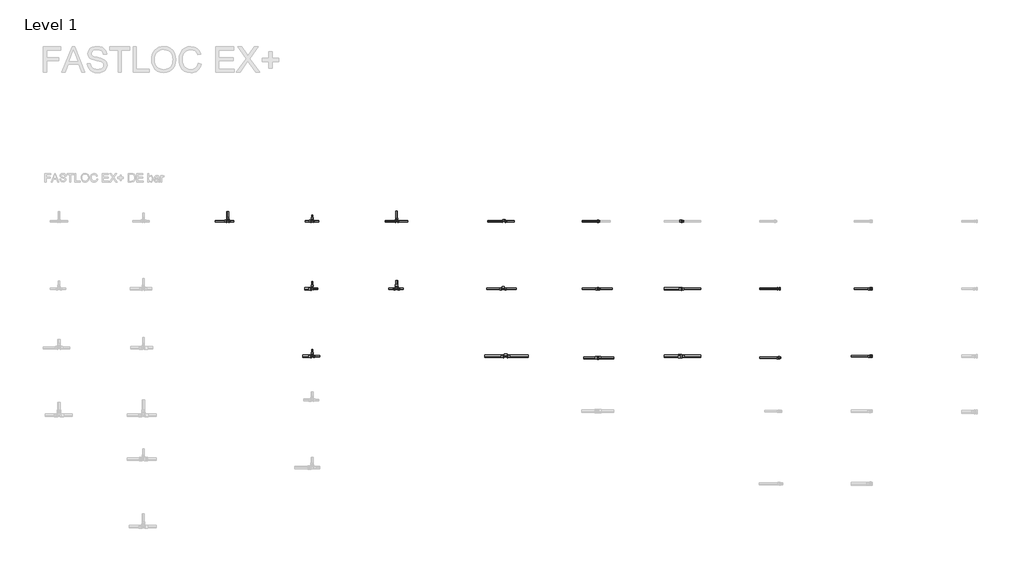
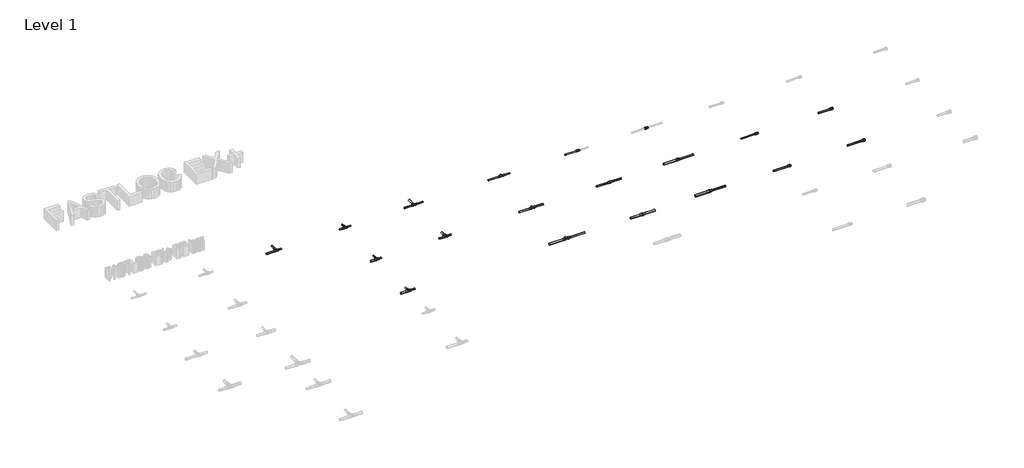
# One storey, part 11 of 16: 37 pipe segments, 19 pipe fittings.
"""IFC4 building model written with IfcOpenShell, lengths in millimetres."""

from ifc_helpers import new_model, si_unit, point, frame, frame_2d, origin, place, context, project, spatial, circle_curve, trimmed, segment, composite_curve, outline, extrude, transform, mapped, element, save
from components import pipe_fitting_78029988, pipe_fitting_15fe286b, pipe_fitting_1a227808, pipe_fitting_455e7b61, pipe_fitting_0153befe, pipe_fitting_3090ac59, pipe_fitting_8e4805be, pipe_fitting_271ef6d1, pipe_fitting_f7ca1bd1, pipe_fitting_db3e6b17, pipe_fitting_a2d92617, pipe_fitting_92973462, pipe_fitting_e5d04139, pipe_fitting_b445dcfe, pipe_fitting_d2a23061, pipe_fitting_f8e3a86c, pipe_fitting_d75665eb, pipe_fitting_9284d0bf, pipe_fitting_5ce0ec79

model = new_model("IFC4")

# Units and contexts
model_context = context("Model", 3, world=origin())
ifc_project = project(units=[si_unit("LENGTHUNIT", "METRE", prefix="MILLI")], contexts=[model_context])

# Site, building, storey
site = spatial("IfcSite", under=ifc_project)
building = spatial("IfcBuilding", under=site)
storey = spatial("IfcBuildingStorey", under=building, Name="Level 1", Elevation=0.0)

# Pipe fittings
placement = place(None, origin())
pipe_fitting_shape = pipe_fitting_78029988(model_context)
element("IfcPipeFitting", 1, ObjectType="FASTLOC_T-piece_EX+ : FSL T-Piece EX+ DE", at=placement, inside=storey, context=model_context, shape_type="MappedRepresentation", body=[
    mapped(pipe_fitting_shape, transform((5562.9146925, 2012.3520033, 0.0), x_axis=(1.0, 0.0, 0.0), y_axis=(0.0, 1.0, 0.0), z_axis=(0.0, 0.0, 1.0))),
])
pipe_fitting_2_shape = pipe_fitting_15fe286b(model_context)
element("IfcPipeFitting", 2, ObjectType="FASTLOC_T-piece internal thread EX+ : FSL T thread EX+ DE", at=placement, inside=storey, context=model_context, shape_type="MappedRepresentation", body=[
    mapped(pipe_fitting_2_shape, transform((6834.0203333, 2012.3520033, 0.0), x_axis=(1.0, 0.0, 0.0), y_axis=(0.0, 1.0, 0.0), z_axis=(0.0, 0.0, 1.0))),
])
pipe_fitting_3_shape = pipe_fitting_1a227808(model_context)
element("IfcPipeFitting", 3, ObjectType="FASTLOC_Coupling reduced EX+ : FSL C EX+ DE", at=placement, inside=storey, context=model_context, shape_type="MappedRepresentation", body=[
    mapped(pipe_fitting_3_shape, transform((8942.2258143, 412.3520033, 0.0), x_axis=(1.0, 0.0, 0.0), y_axis=(0.0, 1.0, 0.0), z_axis=(0.0, 0.0, 1.0))),
])
pipe_fitting_4_shape = pipe_fitting_455e7b61(model_context)
element("IfcPipeFitting", 4, ObjectType="FASTLOC_Coupling equal EX+ : FSL C EX DE", at=placement, inside=storey, context=model_context, shape_type="MappedRepresentation", body=[
    mapped(pipe_fitting_4_shape, transform((7947.6401575, 2012.3520033, 0.0), x_axis=(1.0, 0.0, 0.0), y_axis=(0.0, 1.0, 0.0), z_axis=(0.0, 0.0, 1.0))),
])
pipe_fitting_5_shape = pipe_fitting_0153befe(model_context)
element("IfcPipeFitting", 5, ObjectType="FASTLOC_T-piece_EX+ : FSL T-Piece EX+ DE", at=placement, inside=storey, context=model_context, shape_type="MappedRepresentation", body=[
    mapped(pipe_fitting_5_shape, transform((3562.9146925, 2012.3520033, 0.0), x_axis=(1.0, 0.0, 0.0), y_axis=(0.0, 1.0, 0.0), z_axis=(0.0, 0.0, 1.0))),
])
pipe_fitting_6_shape = pipe_fitting_3090ac59(model_context)
element("IfcPipeFitting", 6, ObjectType="FASTLOC_T-piece_EX+ : FSL T-Piece EX+ DE", at=placement, inside=storey, context=model_context, shape_type="MappedRepresentation", body=[
    mapped(pipe_fitting_6_shape, transform((4562.9146925, 2012.3520033, 0.0), x_axis=(1.0, 0.0, 0.0), y_axis=(0.0, 1.0, 0.0), z_axis=(0.0, 0.0, 1.0))),
])
pipe_fitting_7_shape = pipe_fitting_8e4805be(model_context)
element("IfcPipeFitting", 7, ObjectType="FASTLOC_T-piece_EX+ : FSL T-Piece EX+ DE", at=placement, inside=storey, context=model_context, shape_type="MappedRepresentation", body=[
    mapped(pipe_fitting_7_shape, transform((4562.9146925, 1212.3520033, 0.0), x_axis=(1.0, 0.0, 0.0), y_axis=(0.0, 1.0, 0.0), z_axis=(0.0, 0.0, 1.0))),
])
pipe_fitting_8_shape = pipe_fitting_271ef6d1(model_context)
element("IfcPipeFitting", 8, ObjectType="FASTLOC_T-piece_EX+ : FSL T-Piece EX+ DE", at=placement, inside=storey, context=model_context, shape_type="MappedRepresentation", body=[
    mapped(pipe_fitting_8_shape, transform((4562.9146925, 412.3520033, 0.0), x_axis=(1.0, 0.0, 0.0), y_axis=(0.0, 1.0, 0.0), z_axis=(0.0, 0.0, 1.0))),
])
pipe_fitting_9_shape = pipe_fitting_f7ca1bd1(model_context)
element("IfcPipeFitting", 9, ObjectType="FASTLOC_T-piece_EX+ : FSL T-Piece EX+ DE", at=placement, inside=storey, context=model_context, shape_type="MappedRepresentation", body=[
    mapped(pipe_fitting_9_shape, transform((5562.9146925, 1212.3520033, 0.0), x_axis=(1.0, 0.0, 0.0), y_axis=(0.0, 1.0, 0.0), z_axis=(0.0, 0.0, 1.0))),
])
pipe_fitting_10_shape = pipe_fitting_db3e6b17(model_context)
element("IfcPipeFitting", 10, ObjectType="FASTLOC_Adapter_EX+, with internal thread : FSL A internal DE", at=placement, inside=storey, context=model_context, shape_type="MappedRepresentation", body=[
    mapped(pipe_fitting_10_shape, transform((11179.5143796, 1212.3520033, 0.0), x_axis=(1.0, 0.0, 0.0), y_axis=(0.0, 1.0, 0.0), z_axis=(0.0, 0.0, 1.0))),
])
pipe_fitting_11_shape = pipe_fitting_a2d92617(model_context)
element("IfcPipeFitting", 11, ObjectType="FASTLOC_Adapter_EX+, with internal thread : FSL A internal DE", at=placement, inside=storey, context=model_context, shape_type="MappedRepresentation", body=[
    mapped(pipe_fitting_11_shape, transform((11179.5143796, 412.3520033, 0.0), x_axis=(1.0, 0.0, 0.0), y_axis=(0.0, 1.0, 0.0), z_axis=(0.0, 0.0, 1.0))),
])
pipe_fitting_12_shape = pipe_fitting_92973462(model_context)
element("IfcPipeFitting", 12, ObjectType="FASTLOC_T-piece internal thread EX+ : FSL T thread EX+ DE", at=placement, inside=storey, context=model_context, shape_type="MappedRepresentation", body=[
    mapped(pipe_fitting_12_shape, transform((6823.972973, 1212.3520033, 0.0), x_axis=(1.0, 0.0, 0.0), y_axis=(0.0, 1.0, 0.0), z_axis=(0.0, 0.0, 1.0))),
])
pipe_fitting_13_shape = pipe_fitting_e5d04139(model_context)
element("IfcPipeFitting", 13, ObjectType="FASTLOC_T-piece internal thread EX+ : FSL T thread EX+ DE", at=placement, inside=storey, context=model_context, shape_type="MappedRepresentation", body=[
    mapped(pipe_fitting_13_shape, transform((6854.9423493, 412.3520033, 0.0), x_axis=(1.0, 0.0, 0.0), y_axis=(0.0, 1.0, 0.0), z_axis=(0.0, 0.0, 1.0))),
])
pipe_fitting_14_shape = pipe_fitting_b445dcfe(model_context)
element("IfcPipeFitting", 14, ObjectType="FASTLOC_Coupling reduced EX+ : FSL C EX+ DE", at=placement, inside=storey, context=model_context, shape_type="MappedRepresentation", body=[
    mapped(pipe_fitting_14_shape, transform((8942.2258143, 2012.3520033, 0.0), x_axis=(1.0, 0.0, 0.0), y_axis=(0.0, 1.0, 0.0), z_axis=(0.0, 0.0, 1.0))),
])
pipe_fitting_15_shape = pipe_fitting_d2a23061(model_context)
element("IfcPipeFitting", 15, ObjectType="FASTLOC_Coupling reduced EX+ : FSL C EX+ DE", at=placement, inside=storey, context=model_context, shape_type="MappedRepresentation", body=[
    mapped(pipe_fitting_15_shape, transform((8942.2258143, 1212.3520033, 0.0), x_axis=(1.0, 0.0, 0.0), y_axis=(0.0, 1.0, 0.0), z_axis=(0.0, 0.0, 1.0))),
])
pipe_fitting_16_shape = pipe_fitting_f8e3a86c(model_context)
element("IfcPipeFitting", 16, ObjectType="FASTLOC_Coupling equal EX+ : FSL C EX DE", at=placement, inside=storey, context=model_context, shape_type="MappedRepresentation", body=[
    mapped(pipe_fitting_16_shape, transform((7947.6401575, 1212.3520033, 0.0), x_axis=(1.0, 0.0, 0.0), y_axis=(0.0, 1.0, 0.0), z_axis=(0.0, 0.0, 1.0))),
])
pipe_fitting_17_shape = pipe_fitting_d75665eb(model_context)
element("IfcPipeFitting", 17, ObjectType="FASTLOC_Coupling equal EX+ : FSL C EX DE", at=placement, inside=storey, context=model_context, shape_type="MappedRepresentation", body=[
    mapped(pipe_fitting_17_shape, transform((7947.6401575, 393.645754, 0.0), x_axis=(1.0, 0.0, 0.0), y_axis=(0.0, 1.0, 0.0), z_axis=(0.0, 0.0, 1.0))),
])
pipe_fitting_18_shape = pipe_fitting_9284d0bf(model_context)
element("IfcPipeFitting", 18, ObjectType="FASTLOC_Adapter_RX+, with external thread : FSL A C external EX+ DE", at=placement, inside=storey, context=model_context, shape_type="MappedRepresentation", body=[
    mapped(pipe_fitting_18_shape, transform((10080.5062975, 1212.3520033, 0.0), x_axis=(1.0, 0.0, 0.0), y_axis=(0.0, 1.0, 0.0), z_axis=(0.0, 0.0, 1.0))),
])
pipe_fitting_19_shape = pipe_fitting_5ce0ec79(model_context)
element("IfcPipeFitting", 19, ObjectType="FASTLOC_Adapter_RX+, with external thread : FSL A C external EX+ DE", at=placement, inside=storey, context=model_context, shape_type="MappedRepresentation", body=[
    mapped(pipe_fitting_19_shape, transform((10090.6359613, 393.645754, 0.0), x_axis=(1.0, 0.0, 0.0), y_axis=(0.0, 1.0, 0.0), z_axis=(0.0, 0.0, 1.0))),
])

# Pipe segments
element("IfcPipeSegment", 20, ObjectType="FASTLOC EX+ ML DE bar", at=placement, inside=storey, context=model_context, shape_type="SweptSolid", body=[
    extrude(outline(composite_curve([segment(trimmed(circle_curve(frame_2d((1212.3520033, 0.0)), 10.0), [point((1222.3520033, 0.0))], [point((1212.3520033, -10.0))], False, "CARTESIAN"), True, "CONTINUOUS"), segment(trimmed(circle_curve(frame_2d((1212.3520033, 0.0)), 10.0), [point((1212.3520033, -10.0))], [point((1202.3520033, 0.0))], False, "CARTESIAN"), True, "CONTINUOUS"), segment(trimmed(circle_curve(frame_2d((1212.3520033, 0.0)), 10.0), [point((1202.3520033, 0.0))], [point((1212.3520033, 10.0))], False, "CARTESIAN"), True, "CONTINUOUS"), segment(trimmed(circle_curve(frame_2d((1212.3520033, 0.0)), 10.0), [point((1212.3520033, 10.0))], [point((1222.3520033, 0.0))], False, "CARTESIAN"), True, "CONTINUOUS")], self_intersect=False)), frame((10987.1143796, 0.0, 0.0), z_axis=(1.0, 0.0, 0.0), x_axis=(0.0, 1.0, 0.0)), (0.0, 0.0, 1.0), 180.7),
])
element("IfcPipeSegment", 21, ObjectType="FASTLOC EX+ ML DE bar", at=placement, inside=storey, context=model_context, shape_type="SweptSolid", body=[
    extrude(outline(composite_curve([segment(trimmed(circle_curve(frame_2d((412.3520033, 0.0)), 10.0), [point((422.3520033, 0.0))], [point((412.3520033, -10.0))], False, "CARTESIAN"), True, "CONTINUOUS"), segment(trimmed(circle_curve(frame_2d((412.3520033, 0.0)), 10.0), [point((412.3520033, -10.0))], [point((402.3520033, 0.0))], False, "CARTESIAN"), True, "CONTINUOUS"), segment(trimmed(circle_curve(frame_2d((412.3520033, 0.0)), 10.0), [point((402.3520033, 0.0))], [point((412.3520033, 10.0))], False, "CARTESIAN"), True, "CONTINUOUS"), segment(trimmed(circle_curve(frame_2d((412.3520033, 0.0)), 10.0), [point((412.3520033, 10.0))], [point((422.3520033, 0.0))], False, "CARTESIAN"), True, "CONTINUOUS")], self_intersect=False)), frame((10946.2143796, 0.0, 0.0), z_axis=(1.0, 0.0, 0.0), x_axis=(0.0, 1.0, 0.0)), (0.0, 0.0, 1.0), 220.0),
])
element("IfcPipeSegment", 22, ObjectType="FASTLOC EX+ ML DE bar", at=placement, inside=storey, context=model_context, shape_type="SweptSolid", body=[
    extrude(outline(composite_curve([segment(trimmed(circle_curve(frame_2d((393.645754, 0.0)), 10.0), [point((403.645754, 0.0))], [point((393.645754, -10.0))], False, "CARTESIAN"), True, "CONTINUOUS"), segment(trimmed(circle_curve(frame_2d((393.645754, 0.0)), 10.0), [point((393.645754, -10.0))], [point((383.645754, 0.0))], False, "CARTESIAN"), True, "CONTINUOUS"), segment(trimmed(circle_curve(frame_2d((393.645754, 0.0)), 10.0), [point((383.645754, 0.0))], [point((393.645754, 10.0))], False, "CARTESIAN"), True, "CONTINUOUS"), segment(trimmed(circle_curve(frame_2d((393.645754, 0.0)), 10.0), [point((393.645754, 10.0))], [point((403.645754, 0.0))], False, "CARTESIAN"), True, "CONTINUOUS")], self_intersect=False)), frame((9861.9359613, 0.0, 0.0), z_axis=(1.0, 0.0, 0.0), x_axis=(0.0, 1.0, 0.0)), (0.0, 0.0, 1.0), 220.0),
])
element("IfcPipeSegment", 23, ObjectType="FASTLOC EX+ ML DE bar", at=placement, inside=storey, context=model_context, shape_type="SweptSolid", body=[
    extrude(outline(composite_curve([segment(trimmed(circle_curve(frame_2d((1212.3520033, 0.0)), 8.0), [point((1220.3520033, 0.0))], [point((1212.3520033, -8.0))], False, "CARTESIAN"), True, "CONTINUOUS"), segment(trimmed(circle_curve(frame_2d((1212.3520033, 0.0)), 8.0), [point((1212.3520033, -8.0))], [point((1204.3520033, 0.0))], False, "CARTESIAN"), True, "CONTINUOUS"), segment(trimmed(circle_curve(frame_2d((1212.3520033, 0.0)), 8.0), [point((1204.3520033, 0.0))], [point((1212.3520033, 8.0))], False, "CARTESIAN"), True, "CONTINUOUS"), segment(trimmed(circle_curve(frame_2d((1212.3520033, 0.0)), 8.0), [point((1212.3520033, 8.0))], [point((1220.3520033, 0.0))], False, "CARTESIAN"), True, "CONTINUOUS")], self_intersect=False)), frame((9861.9359613, 0.0, 0.0), z_axis=(1.0, 0.0, 0.0), x_axis=(0.0, 1.0, 0.0)), (0.0, 0.0, 1.0), 209.6703362),
])
element("IfcPipeSegment", 24, ObjectType="FASTLOC EX+ ML DE bar", at=placement, inside=storey, context=model_context, shape_type="SweptSolid", body=[
    extrude(outline(composite_curve([segment(trimmed(circle_curve(frame_2d((2012.3520033, 0.0)), 8.0), [point((2020.3520033, 0.0))], [point((2012.3520033, -8.0))], False, "CARTESIAN"), True, "CONTINUOUS"), segment(trimmed(circle_curve(frame_2d((2012.3520033, 0.0)), 8.0), [point((2012.3520033, -8.0))], [point((2004.3520033, 0.0))], False, "CARTESIAN"), True, "CONTINUOUS"), segment(trimmed(circle_curve(frame_2d((2012.3520033, 0.0)), 8.0), [point((2004.3520033, 0.0))], [point((2012.3520033, 8.0))], False, "CARTESIAN"), True, "CONTINUOUS"), segment(trimmed(circle_curve(frame_2d((2012.3520033, 0.0)), 8.0), [point((2012.3520033, 8.0))], [point((2020.3520033, 0.0))], False, "CARTESIAN"), True, "CONTINUOUS")], self_intersect=False)), frame((7760.4401575, 0.0, 0.0), z_axis=(1.0, 0.0, 0.0), x_axis=(0.0, 1.0, 0.0)), (0.0, 0.0, 1.0), 180.0),
])
element("IfcPipeSegment", 25, ObjectType="FASTLOC EX+ ML DE bar", at=placement, inside=storey, context=model_context, shape_type="SweptSolid", body=[
    extrude(outline(composite_curve([segment(trimmed(circle_curve(frame_2d((1212.3520033, 0.0)), 10.0), [point((1202.3520033, 0.0))], [point((1212.3520033, 10.0))], False, "CARTESIAN"), True, "CONTINUOUS"), segment(trimmed(circle_curve(frame_2d((1212.3520033, 0.0)), 10.0), [point((1212.3520033, 10.0))], [point((1222.3520033, 0.0))], False, "CARTESIAN"), True, "CONTINUOUS"), segment(trimmed(circle_curve(frame_2d((1212.3520033, 0.0)), 10.0), [point((1222.3520033, 0.0))], [point((1212.3520033, -10.0))], False, "CARTESIAN"), True, "CONTINUOUS"), segment(trimmed(circle_curve(frame_2d((1212.3520033, 0.0)), 10.0), [point((1212.3520033, -10.0))], [point((1202.3520033, 0.0))], False, "CARTESIAN"), True, "CONTINUOUS")], self_intersect=False)), frame((7955.0401575, 0.0, 0.0), z_axis=(1.0, 0.0, 0.0), x_axis=(0.0, 1.0, 0.0)), (0.0, 0.0, 1.0), 160.0),
])
element("IfcPipeSegment", 26, ObjectType="FASTLOC EX+ ML DE bar", at=placement, inside=storey, context=model_context, shape_type="SweptSolid", body=[
    extrude(outline(composite_curve([segment(trimmed(circle_curve(frame_2d((1212.3520033, 0.0)), 10.0), [point((1222.3520033, 0.0))], [point((1212.3520033, -10.0))], False, "CARTESIAN"), True, "CONTINUOUS"), segment(trimmed(circle_curve(frame_2d((1212.3520033, 0.0)), 10.0), [point((1212.3520033, -10.0))], [point((1202.3520033, 0.0))], False, "CARTESIAN"), True, "CONTINUOUS"), segment(trimmed(circle_curve(frame_2d((1212.3520033, 0.0)), 10.0), [point((1202.3520033, 0.0))], [point((1212.3520033, 10.0))], False, "CARTESIAN"), True, "CONTINUOUS"), segment(trimmed(circle_curve(frame_2d((1212.3520033, 0.0)), 10.0), [point((1212.3520033, 10.0))], [point((1222.3520033, 0.0))], False, "CARTESIAN"), True, "CONTINUOUS")], self_intersect=False)), frame((7760.4401575, 0.0, 0.0), z_axis=(1.0, 0.0, 0.0), x_axis=(0.0, 1.0, 0.0)), (0.0, 0.0, 1.0), 179.8),
])
element("IfcPipeSegment", 27, ObjectType="FASTLOC EX+ ML DE bar", at=placement, inside=storey, context=model_context, shape_type="SweptSolid", body=[
    extrude(outline(composite_curve([segment(trimmed(circle_curve(frame_2d((393.645754, 0.0)), 12.5), [point((381.145754, 0.0))], [point((393.645754, 12.5))], False, "CARTESIAN"), True, "CONTINUOUS"), segment(trimmed(circle_curve(frame_2d((393.645754, 0.0)), 12.5), [point((393.645754, 12.5))], [point((406.145754, 0.0))], False, "CARTESIAN"), True, "CONTINUOUS"), segment(trimmed(circle_curve(frame_2d((393.645754, 0.0)), 12.5), [point((406.145754, 0.0))], [point((393.645754, -12.5))], False, "CARTESIAN"), True, "CONTINUOUS"), segment(trimmed(circle_curve(frame_2d((393.645754, 0.0)), 12.5), [point((393.645754, -12.5))], [point((381.145754, 0.0))], False, "CARTESIAN"), True, "CONTINUOUS")], self_intersect=False)), frame((7955.6401575, 0.0, 0.0), z_axis=(1.0, 0.0, 0.0), x_axis=(0.0, 1.0, 0.0)), (0.0, 0.0, 1.0), 180.0),
])
element("IfcPipeSegment", 28, ObjectType="FASTLOC EX+ ML DE bar", at=placement, inside=storey, context=model_context, shape_type="SweptSolid", body=[
    extrude(outline(composite_curve([segment(trimmed(circle_curve(frame_2d((393.645754, 0.0)), 12.5), [point((406.145754, 0.0))], [point((393.645754, -12.5))], False, "CARTESIAN"), True, "CONTINUOUS"), segment(trimmed(circle_curve(frame_2d((393.645754, 0.0)), 12.5), [point((393.645754, -12.5))], [point((381.145754, 0.0))], False, "CARTESIAN"), True, "CONTINUOUS"), segment(trimmed(circle_curve(frame_2d((393.645754, 0.0)), 12.5), [point((381.145754, 0.0))], [point((393.645754, 12.5))], False, "CARTESIAN"), True, "CONTINUOUS"), segment(trimmed(circle_curve(frame_2d((393.645754, 0.0)), 12.5), [point((393.645754, 12.5))], [point((406.145754, 0.0))], False, "CARTESIAN"), True, "CONTINUOUS")], self_intersect=False)), frame((7779.6401575, 0.0, 0.0), z_axis=(1.0, 0.0, 0.0), x_axis=(0.0, 1.0, 0.0)), (0.0, 0.0, 1.0), 160.0),
])
element("IfcPipeSegment", 29, ObjectType="FASTLOC EX+ ML DE bar", at=placement, inside=storey, context=model_context, shape_type="SweptSolid", body=[
    extrude(outline(composite_curve([segment(trimmed(circle_curve(frame_2d((412.3520033, 0.0)), 12.5), [point((399.8520033, 0.0))], [point((412.3520033, 12.5))], False, "CARTESIAN"), True, "CONTINUOUS"), segment(trimmed(circle_curve(frame_2d((412.3520033, 0.0)), 12.5), [point((412.3520033, 12.5))], [point((424.8520033, 0.0))], False, "CARTESIAN"), True, "CONTINUOUS"), segment(trimmed(circle_curve(frame_2d((412.3520033, 0.0)), 12.5), [point((424.8520033, 0.0))], [point((412.3520033, -12.5))], False, "CARTESIAN"), True, "CONTINUOUS"), segment(trimmed(circle_curve(frame_2d((412.3520033, 0.0)), 12.5), [point((412.3520033, -12.5))], [point((399.8520033, 0.0))], False, "CARTESIAN"), True, "CONTINUOUS")], self_intersect=False)), frame((6881.6423493, 0.0, 0.0), z_axis=(1.0, 0.0, 0.0), x_axis=(0.0, 1.0, 0.0)), (0.0, 0.0, 1.0), 240.0),
])
element("IfcPipeSegment", 30, ObjectType="FASTLOC EX+ ML DE bar", at=placement, inside=storey, context=model_context, shape_type="SweptSolid", body=[
    extrude(outline(composite_curve([segment(trimmed(circle_curve(frame_2d((412.3520033, 0.0)), 12.5), [point((424.8520033, 0.0))], [point((412.3520033, -12.5))], False, "CARTESIAN"), True, "CONTINUOUS"), segment(trimmed(circle_curve(frame_2d((412.3520033, 0.0)), 12.5), [point((412.3520033, -12.5))], [point((399.8520033, 0.0))], False, "CARTESIAN"), True, "CONTINUOUS"), segment(trimmed(circle_curve(frame_2d((412.3520033, 0.0)), 12.5), [point((399.8520033, 0.0))], [point((412.3520033, 12.5))], False, "CARTESIAN"), True, "CONTINUOUS"), segment(trimmed(circle_curve(frame_2d((412.3520033, 0.0)), 12.5), [point((412.3520033, 12.5))], [point((424.8520033, 0.0))], False, "CARTESIAN"), True, "CONTINUOUS")], self_intersect=False)), frame((6608.2423493, 0.0, 0.0), z_axis=(1.0, 0.0, 0.0), x_axis=(0.0, 1.0, 0.0)), (0.0, 0.0, 1.0), 220.0),
])
element("IfcPipeSegment", 31, ObjectType="FASTLOC EX+ ML DE bar", at=placement, inside=storey, context=model_context, shape_type="SweptSolid", body=[
    extrude(outline(composite_curve([segment(trimmed(circle_curve(frame_2d((1212.3520033, 0.0)), 10.0), [point((1202.3520033, 0.0))], [point((1212.3520033, 10.0))], False, "CARTESIAN"), True, "CONTINUOUS"), segment(trimmed(circle_curve(frame_2d((1212.3520033, 0.0)), 10.0), [point((1212.3520033, 10.0))], [point((1222.3520033, 0.0))], False, "CARTESIAN"), True, "CONTINUOUS"), segment(trimmed(circle_curve(frame_2d((1212.3520033, 0.0)), 10.0), [point((1222.3520033, 0.0))], [point((1212.3520033, -10.0))], False, "CARTESIAN"), True, "CONTINUOUS"), segment(trimmed(circle_curve(frame_2d((1212.3520033, 0.0)), 10.0), [point((1212.3520033, -10.0))], [point((1202.3520033, 0.0))], False, "CARTESIAN"), True, "CONTINUOUS")], self_intersect=False)), frame((6846.472973, 0.0, 0.0), z_axis=(1.0, 0.0, 0.0), x_axis=(0.0, 1.0, 0.0)), (0.0, 0.0, 1.0), 135.0),
])
element("IfcPipeSegment", 32, ObjectType="FASTLOC EX+ ML DE bar", at=placement, inside=storey, context=model_context, shape_type="SweptSolid", body=[
    extrude(outline(composite_curve([segment(trimmed(circle_curve(frame_2d((1212.3520033, 0.0)), 10.0), [point((1222.3520033, 0.0))], [point((1212.3520033, -10.0))], False, "CARTESIAN"), True, "CONTINUOUS"), segment(trimmed(circle_curve(frame_2d((1212.3520033, 0.0)), 10.0), [point((1212.3520033, -10.0))], [point((1202.3520033, 0.0))], False, "CARTESIAN"), True, "CONTINUOUS"), segment(trimmed(circle_curve(frame_2d((1212.3520033, 0.0)), 10.0), [point((1202.3520033, 0.0))], [point((1212.3520033, 10.0))], False, "CARTESIAN"), True, "CONTINUOUS"), segment(trimmed(circle_curve(frame_2d((1212.3520033, 0.0)), 10.0), [point((1212.3520033, 10.0))], [point((1222.3520033, 0.0))], False, "CARTESIAN"), True, "CONTINUOUS")], self_intersect=False)), frame((6631.472973, 0.0, 0.0), z_axis=(1.0, 0.0, 0.0), x_axis=(0.0, 1.0, 0.0)), (0.0, 0.0, 1.0), 170.0),
])
element("IfcPipeSegment", 33, ObjectType="FASTLOC EX+ ML DE bar", at=placement, inside=storey, context=model_context, shape_type="SweptSolid", body=[
    extrude(outline(composite_curve([segment(trimmed(circle_curve(frame_2d((2012.3520033, 0.0)), 8.0), [point((2004.3520033, 0.0))], [point((2012.3520033, 8.0))], False, "CARTESIAN"), True, "CONTINUOUS"), segment(trimmed(circle_curve(frame_2d((2012.3520033, 0.0)), 8.0), [point((2012.3520033, 8.0))], [point((2020.3520033, 0.0))], False, "CARTESIAN"), True, "CONTINUOUS"), segment(trimmed(circle_curve(frame_2d((2012.3520033, 0.0)), 8.0), [point((2020.3520033, 0.0))], [point((2012.3520033, -8.0))], False, "CARTESIAN"), True, "CONTINUOUS"), segment(trimmed(circle_curve(frame_2d((2012.3520033, 0.0)), 8.0), [point((2012.3520033, -8.0))], [point((2004.3520033, 0.0))], False, "CARTESIAN"), True, "CONTINUOUS")], self_intersect=False)), frame((6856.0203333, 0.0, 0.0), z_axis=(1.0, 0.0, 0.0), x_axis=(0.0, 1.0, 0.0)), (0.0, 0.0, 1.0), 100.0),
])
element("IfcPipeSegment", 34, ObjectType="FASTLOC EX+ ML DE bar", at=placement, inside=storey, context=model_context, shape_type="SweptSolid", body=[
    extrude(outline(composite_curve([segment(trimmed(circle_curve(frame_2d((2012.3520033, 0.0)), 8.0), [point((2020.3520033, 0.0))], [point((2012.3520033, -8.0))], False, "CARTESIAN"), True, "CONTINUOUS"), segment(trimmed(circle_curve(frame_2d((2012.3520033, 0.0)), 8.0), [point((2012.3520033, -8.0))], [point((2004.3520033, 0.0))], False, "CARTESIAN"), True, "CONTINUOUS"), segment(trimmed(circle_curve(frame_2d((2012.3520033, 0.0)), 8.0), [point((2004.3520033, 0.0))], [point((2012.3520033, 8.0))], False, "CARTESIAN"), True, "CONTINUOUS"), segment(trimmed(circle_curve(frame_2d((2012.3520033, 0.0)), 8.0), [point((2012.3520033, 8.0))], [point((2020.3520033, 0.0))], False, "CARTESIAN"), True, "CONTINUOUS")], self_intersect=False)), frame((6642.0203333, 0.0, 0.0), z_axis=(1.0, 0.0, 0.0), x_axis=(0.0, 1.0, 0.0)), (0.0, 0.0, 1.0), 170.0),
])
element("IfcPipeSegment", 35, ObjectType="FASTLOC EX+ ML DE bar", at=placement, inside=storey, context=model_context, shape_type="SweptSolid", body=[
    extrude(outline(composite_curve([segment(trimmed(circle_curve(frame_2d((2012.3520033, 0.0)), 8.0), [point((2004.3520033, 0.0))], [point((2012.3520033, 8.0))], False, "CARTESIAN"), True, "CONTINUOUS"), segment(trimmed(circle_curve(frame_2d((2012.3520033, 0.0)), 8.0), [point((2012.3520033, 8.0))], [point((2020.3520033, 0.0))], False, "CARTESIAN"), True, "CONTINUOUS"), segment(trimmed(circle_curve(frame_2d((2012.3520033, 0.0)), 8.0), [point((2020.3520033, 0.0))], [point((2012.3520033, -8.0))], False, "CARTESIAN"), True, "CONTINUOUS"), segment(trimmed(circle_curve(frame_2d((2012.3520033, 0.0)), 8.0), [point((2012.3520033, -8.0))], [point((2004.3520033, 0.0))], False, "CARTESIAN"), True, "CONTINUOUS")], self_intersect=False)), frame((5579.8146925, 0.0, 0.0), z_axis=(1.0, 0.0, 0.0), x_axis=(0.0, 1.0, 0.0)), (0.0, 0.0, 1.0), 115.34),
])
element("IfcPipeSegment", 36, ObjectType="FASTLOC EX+ ML DE bar", at=placement, inside=storey, context=model_context, shape_type="SweptSolid", body=[
    extrude(outline(composite_curve([segment(trimmed(circle_curve(frame_2d((2012.3520033, 0.0)), 8.0), [point((2020.3520033, 0.0))], [point((2012.3520033, -8.0))], False, "CARTESIAN"), True, "CONTINUOUS"), segment(trimmed(circle_curve(frame_2d((2012.3520033, 0.0)), 8.0), [point((2012.3520033, -8.0))], [point((2004.3520033, 0.0))], False, "CARTESIAN"), True, "CONTINUOUS"), segment(trimmed(circle_curve(frame_2d((2012.3520033, 0.0)), 8.0), [point((2004.3520033, 0.0))], [point((2012.3520033, 8.0))], False, "CARTESIAN"), True, "CONTINUOUS"), segment(trimmed(circle_curve(frame_2d((2012.3520033, 0.0)), 8.0), [point((2012.3520033, 8.0))], [point((2020.3520033, 0.0))], False, "CARTESIAN"), True, "CONTINUOUS")], self_intersect=False)), frame((5426.0146925, 0.0, 0.0), z_axis=(1.0, 0.0, 0.0), x_axis=(0.0, 1.0, 0.0)), (0.0, 0.0, 1.0), 120.0),
])
element("IfcPipeSegment", 37, ObjectType="FASTLOC EX+ ML DE bar", at=placement, inside=storey, context=model_context, shape_type="SweptSolid", body=[
    extrude(outline(composite_curve([segment(trimmed(circle_curve(frame_2d((0.0, 5562.9146925)), 10.0), [point((0.0, 5572.9146925))], [point((10.0, 5562.9146925))], False, "CARTESIAN"), True, "CONTINUOUS"), segment(trimmed(circle_curve(frame_2d((0.0, 5562.9146925)), 10.0), [point((10.0, 5562.9146925))], [point((0.0, 5552.9146925))], False, "CARTESIAN"), True, "CONTINUOUS"), segment(trimmed(circle_curve(frame_2d((0.0, 5562.9146925)), 10.0), [point((0.0, 5552.9146925))], [point((-10.0, 5562.9146925))], False, "CARTESIAN"), True, "CONTINUOUS"), segment(trimmed(circle_curve(frame_2d((0.0, 5562.9146925)), 10.0), [point((-10.0, 5562.9146925))], [point((0.0, 5572.9146925))], False, "CARTESIAN"), True, "CONTINUOUS")], self_intersect=False)), frame((0.0, 2034.6520033, 0.0), z_axis=(0.0, 1.0, 0.0), x_axis=(0.0, 0.0, 1.0)), (0.0, 0.0, 1.0), 100.0),
])
element("IfcPipeSegment", 38, ObjectType="FASTLOC EX+ ML DE bar", at=placement, inside=storey, context=model_context, shape_type="SweptSolid", body=[
    extrude(outline(composite_curve([segment(trimmed(circle_curve(frame_2d((1212.3520033, 0.0)), 10.0), [point((1222.3520033, 0.0))], [point((1212.3520033, -10.0))], False, "CARTESIAN"), True, "CONTINUOUS"), segment(trimmed(circle_curve(frame_2d((1212.3520033, 0.0)), 10.0), [point((1212.3520033, -10.0))], [point((1202.3520033, 0.0))], False, "CARTESIAN"), True, "CONTINUOUS"), segment(trimmed(circle_curve(frame_2d((1212.3520033, 0.0)), 10.0), [point((1202.3520033, 0.0))], [point((1212.3520033, 10.0))], False, "CARTESIAN"), True, "CONTINUOUS"), segment(trimmed(circle_curve(frame_2d((1212.3520033, 0.0)), 10.0), [point((1212.3520033, 10.0))], [point((1222.3520033, 0.0))], False, "CARTESIAN"), True, "CONTINUOUS")], self_intersect=False)), frame((5468.9146925, 0.0, 0.0), z_axis=(1.0, 0.0, 0.0), x_axis=(0.0, 1.0, 0.0)), (0.0, 0.0, 1.0), 75.0),
])
element("IfcPipeSegment", 39, ObjectType="FASTLOC EX+ ML DE bar", at=placement, inside=storey, context=model_context, shape_type="SweptSolid", body=[
    extrude(outline(composite_curve([segment(trimmed(circle_curve(frame_2d((1212.3520033, 0.0)), 10.0), [point((1202.3520033, 0.0))], [point((1212.3520033, 10.0))], False, "CARTESIAN"), True, "CONTINUOUS"), segment(trimmed(circle_curve(frame_2d((1212.3520033, 0.0)), 10.0), [point((1212.3520033, 10.0))], [point((1222.3520033, 0.0))], False, "CARTESIAN"), True, "CONTINUOUS"), segment(trimmed(circle_curve(frame_2d((1212.3520033, 0.0)), 10.0), [point((1222.3520033, 0.0))], [point((1212.3520033, -10.0))], False, "CARTESIAN"), True, "CONTINUOUS"), segment(trimmed(circle_curve(frame_2d((1212.3520033, 0.0)), 10.0), [point((1212.3520033, -10.0))], [point((1202.3520033, 0.0))], False, "CARTESIAN"), True, "CONTINUOUS")], self_intersect=False)), frame((5581.9146925, 0.0, 0.0), z_axis=(1.0, 0.0, 0.0), x_axis=(0.0, 1.0, 0.0)), (0.0, 0.0, 1.0), 60.0),
])
element("IfcPipeSegment", 40, ObjectType="FASTLOC EX+ ML DE bar", at=placement, inside=storey, context=model_context, shape_type="SweptSolid", body=[
    extrude(outline(composite_curve([segment(trimmed(circle_curve(frame_2d((0.0, 5562.9146925)), 12.5), [point((0.0, 5575.4146925))], [point((12.5, 5562.9146925))], False, "CARTESIAN"), True, "CONTINUOUS"), segment(trimmed(circle_curve(frame_2d((0.0, 5562.9146925)), 12.5), [point((12.5, 5562.9146925))], [point((0.0, 5550.4146925))], False, "CARTESIAN"), True, "CONTINUOUS"), segment(trimmed(circle_curve(frame_2d((0.0, 5562.9146925)), 12.5), [point((0.0, 5550.4146925))], [point((-12.5, 5562.9146925))], False, "CARTESIAN"), True, "CONTINUOUS"), segment(trimmed(circle_curve(frame_2d((0.0, 5562.9146925)), 12.5), [point((-12.5, 5562.9146925))], [point((0.0, 5575.4146925))], False, "CARTESIAN"), True, "CONTINUOUS")], self_intersect=False)), frame((0.0, 1239.1520033, 0.0), z_axis=(0.0, 1.0, 0.0), x_axis=(0.0, 0.0, 1.0)), (0.0, 0.0, 1.0), 70.0),
])
element("IfcPipeSegment", 41, ObjectType="FASTLOC EX+ ML DE bar", at=placement, inside=storey, context=model_context, shape_type="SweptSolid", body=[
    extrude(outline(composite_curve([segment(trimmed(circle_curve(frame_2d((2012.3520033, 0.0)), 10.0), [point((2022.3520033, 0.0))], [point((2012.3520033, -10.0))], False, "CARTESIAN"), True, "CONTINUOUS"), segment(trimmed(circle_curve(frame_2d((2012.3520033, 0.0)), 10.0), [point((2012.3520033, -10.0))], [point((2002.3520033, 0.0))], False, "CARTESIAN"), True, "CONTINUOUS"), segment(trimmed(circle_curve(frame_2d((2012.3520033, 0.0)), 10.0), [point((2002.3520033, 0.0))], [point((2012.3520033, 10.0))], False, "CARTESIAN"), True, "CONTINUOUS"), segment(trimmed(circle_curve(frame_2d((2012.3520033, 0.0)), 10.0), [point((2012.3520033, 10.0))], [point((2022.3520033, 0.0))], False, "CARTESIAN"), True, "CONTINUOUS")], self_intersect=False)), frame((4482.4146925, 0.0, 0.0), z_axis=(1.0, 0.0, 0.0), x_axis=(0.0, 1.0, 0.0)), (0.0, 0.0, 1.0), 65.0),
])
element("IfcPipeSegment", 42, ObjectType="FASTLOC EX+ ML DE bar", at=placement, inside=storey, context=model_context, shape_type="SweptSolid", body=[
    extrude(outline(composite_curve([segment(trimmed(circle_curve(frame_2d((0.0, 4562.9146925)), 8.0), [point((0.0, 4570.9146925))], [point((8.0, 4562.9146925))], False, "CARTESIAN"), True, "CONTINUOUS"), segment(trimmed(circle_curve(frame_2d((0.0, 4562.9146925)), 8.0), [point((8.0, 4562.9146925))], [point((0.0, 4554.9146925))], False, "CARTESIAN"), True, "CONTINUOUS"), segment(trimmed(circle_curve(frame_2d((0.0, 4562.9146925)), 8.0), [point((0.0, 4554.9146925))], [point((-8.0, 4562.9146925))], False, "CARTESIAN"), True, "CONTINUOUS"), segment(trimmed(circle_curve(frame_2d((0.0, 4562.9146925)), 8.0), [point((-8.0, 4562.9146925))], [point((0.0, 4570.9146925))], False, "CARTESIAN"), True, "CONTINUOUS")], self_intersect=False)), frame((0.0, 2038.7520033, 0.0), z_axis=(0.0, 1.0, 0.0), x_axis=(0.0, 0.0, 1.0)), (0.0, 0.0, 1.0), 50.0),
])
element("IfcPipeSegment", 43, ObjectType="FASTLOC EX+ ML DE bar", at=placement, inside=storey, context=model_context, shape_type="SweptSolid", body=[
    extrude(outline(composite_curve([segment(trimmed(circle_curve(frame_2d((2012.3520033, 0.0)), 8.0), [point((2004.3520033, 0.0))], [point((2012.3520033, 8.0))], False, "CARTESIAN"), True, "CONTINUOUS"), segment(trimmed(circle_curve(frame_2d((2012.3520033, 0.0)), 8.0), [point((2012.3520033, 8.0))], [point((2020.3520033, 0.0))], False, "CARTESIAN"), True, "CONTINUOUS"), segment(trimmed(circle_curve(frame_2d((2012.3520033, 0.0)), 8.0), [point((2020.3520033, 0.0))], [point((2012.3520033, -8.0))], False, "CARTESIAN"), True, "CONTINUOUS"), segment(trimmed(circle_curve(frame_2d((2012.3520033, 0.0)), 8.0), [point((2012.3520033, -8.0))], [point((2004.3520033, 0.0))], False, "CARTESIAN"), True, "CONTINUOUS")], self_intersect=False)), frame((4578.0146925, 0.0, 0.0), z_axis=(1.0, 0.0, 0.0), x_axis=(0.0, 1.0, 0.0)), (0.0, 0.0, 1.0), 65.0),
])
element("IfcPipeSegment", 44, ObjectType="FASTLOC EX+ ML DE bar", at=placement, inside=storey, context=model_context, shape_type="SweptSolid", body=[
    extrude(outline(composite_curve([segment(trimmed(circle_curve(frame_2d((1212.3520033, 0.0)), 8.0), [point((1204.3520033, 0.0))], [point((1212.3520033, 8.0))], False, "CARTESIAN"), True, "CONTINUOUS"), segment(trimmed(circle_curve(frame_2d((1212.3520033, 0.0)), 8.0), [point((1212.3520033, 8.0))], [point((1220.3520033, 0.0))], False, "CARTESIAN"), True, "CONTINUOUS"), segment(trimmed(circle_curve(frame_2d((1212.3520033, 0.0)), 8.0), [point((1220.3520033, 0.0))], [point((1212.3520033, -8.0))], False, "CARTESIAN"), True, "CONTINUOUS"), segment(trimmed(circle_curve(frame_2d((1212.3520033, 0.0)), 8.0), [point((1212.3520033, -8.0))], [point((1204.3520033, 0.0))], False, "CARTESIAN"), True, "CONTINUOUS")], self_intersect=False)), frame((4578.0146925, 0.0, 0.0), z_axis=(1.0, 0.0, 0.0), x_axis=(0.0, 1.0, 0.0)), (0.0, 0.0, 1.0), 51.7891439),
])
element("IfcPipeSegment", 45, ObjectType="FASTLOC EX+ ML DE bar", at=placement, inside=storey, context=model_context, shape_type="SweptSolid", body=[
    extrude(outline(composite_curve([segment(trimmed(circle_curve(frame_2d((1212.3520033, 0.0)), 12.5), [point((1224.8520033, 0.0))], [point((1212.3520033, -12.5))], False, "CARTESIAN"), True, "CONTINUOUS"), segment(trimmed(circle_curve(frame_2d((1212.3520033, 0.0)), 12.5), [point((1212.3520033, -12.5))], [point((1199.8520033, 0.0))], False, "CARTESIAN"), True, "CONTINUOUS"), segment(trimmed(circle_curve(frame_2d((1212.3520033, 0.0)), 12.5), [point((1199.8520033, 0.0))], [point((1212.3520033, 12.5))], False, "CARTESIAN"), True, "CONTINUOUS"), segment(trimmed(circle_curve(frame_2d((1212.3520033, 0.0)), 12.5), [point((1212.3520033, 12.5))], [point((1224.8520033, 0.0))], False, "CARTESIAN"), True, "CONTINUOUS")], self_intersect=False)), frame((4476.5146925, 0.0, 0.0), z_axis=(1.0, 0.0, 0.0), x_axis=(0.0, 1.0, 0.0)), (0.0, 0.0, 1.0), 70.0),
])
element("IfcPipeSegment", 46, ObjectType="FASTLOC EX+ ML DE bar", at=placement, inside=storey, context=model_context, shape_type="SweptSolid", body=[
    extrude(outline(composite_curve([segment(trimmed(circle_curve(frame_2d((0.0, 4562.9146925)), 8.0), [point((0.0, 4570.9146925))], [point((8.0, 4562.9146925))], False, "CARTESIAN"), True, "CONTINUOUS"), segment(trimmed(circle_curve(frame_2d((0.0, 4562.9146925)), 8.0), [point((8.0, 4562.9146925))], [point((0.0, 4554.9146925))], False, "CARTESIAN"), True, "CONTINUOUS"), segment(trimmed(circle_curve(frame_2d((0.0, 4562.9146925)), 8.0), [point((0.0, 4554.9146925))], [point((-8.0, 4562.9146925))], False, "CARTESIAN"), True, "CONTINUOUS"), segment(trimmed(circle_curve(frame_2d((0.0, 4562.9146925)), 8.0), [point((-8.0, 4562.9146925))], [point((0.0, 4570.9146925))], False, "CARTESIAN"), True, "CONTINUOUS")], self_intersect=False)), frame((0.0, 1241.4520033, 0.0), z_axis=(0.0, 1.0, 0.0), x_axis=(0.0, 0.0, 1.0)), (0.0, 0.0, 1.0), 57.2788778),
])
element("IfcPipeSegment", 47, ObjectType="FASTLOC EX+ ML DE bar", at=placement, inside=storey, context=model_context, shape_type="SweptSolid", body=[
    extrude(outline(composite_curve([segment(trimmed(circle_curve(frame_2d((412.3520033, 0.0)), 10.0), [point((402.3520033, 0.0))], [point((412.3520033, 10.0))], False, "CARTESIAN"), True, "CONTINUOUS"), segment(trimmed(circle_curve(frame_2d((412.3520033, 0.0)), 10.0), [point((412.3520033, 10.0))], [point((422.3520033, 0.0))], False, "CARTESIAN"), True, "CONTINUOUS"), segment(trimmed(circle_curve(frame_2d((412.3520033, 0.0)), 10.0), [point((422.3520033, 0.0))], [point((412.3520033, -10.0))], False, "CARTESIAN"), True, "CONTINUOUS"), segment(trimmed(circle_curve(frame_2d((412.3520033, 0.0)), 10.0), [point((412.3520033, -10.0))], [point((402.3520033, 0.0))], False, "CARTESIAN"), True, "CONTINUOUS")], self_intersect=False)), frame((4578.4146925, 0.0, 0.0), z_axis=(1.0, 0.0, 0.0), x_axis=(0.0, 1.0, 0.0)), (0.0, 0.0, 1.0), 75.0),
])
element("IfcPipeSegment", 48, ObjectType="FASTLOC EX+ ML DE bar", at=placement, inside=storey, context=model_context, shape_type="SweptSolid", body=[
    extrude(outline(composite_curve([segment(trimmed(circle_curve(frame_2d((0.0, 4562.9146925)), 8.0), [point((0.0, 4570.9146925))], [point((8.0, 4562.9146925))], False, "CARTESIAN"), True, "CONTINUOUS"), segment(trimmed(circle_curve(frame_2d((0.0, 4562.9146925)), 8.0), [point((8.0, 4562.9146925))], [point((0.0, 4554.9146925))], False, "CARTESIAN"), True, "CONTINUOUS"), segment(trimmed(circle_curve(frame_2d((0.0, 4562.9146925)), 8.0), [point((0.0, 4554.9146925))], [point((-8.0, 4562.9146925))], False, "CARTESIAN"), True, "CONTINUOUS"), segment(trimmed(circle_curve(frame_2d((0.0, 4562.9146925)), 8.0), [point((-8.0, 4562.9146925))], [point((0.0, 4570.9146925))], False, "CARTESIAN"), True, "CONTINUOUS")], self_intersect=False)), frame((0.0, 441.4520033, 0.0), z_axis=(0.0, 1.0, 0.0), x_axis=(0.0, 0.0, 1.0)), (0.0, 0.0, 1.0), 50.0),
])
element("IfcPipeSegment", 49, ObjectType="FASTLOC EX+ ML DE bar", at=placement, inside=storey, context=model_context, shape_type="SweptSolid", body=[
    extrude(outline(composite_curve([segment(trimmed(circle_curve(frame_2d((412.3520033, 0.0)), 12.5), [point((424.8520033, 0.0))], [point((412.3520033, -12.5))], False, "CARTESIAN"), True, "CONTINUOUS"), segment(trimmed(circle_curve(frame_2d((412.3520033, 0.0)), 12.5), [point((412.3520033, -12.5))], [point((399.8520033, 0.0))], False, "CARTESIAN"), True, "CONTINUOUS"), segment(trimmed(circle_curve(frame_2d((412.3520033, 0.0)), 12.5), [point((399.8520033, 0.0))], [point((412.3520033, 12.5))], False, "CARTESIAN"), True, "CONTINUOUS"), segment(trimmed(circle_curve(frame_2d((412.3520033, 0.0)), 12.5), [point((412.3520033, 12.5))], [point((424.8520033, 0.0))], False, "CARTESIAN"), True, "CONTINUOUS")], self_intersect=False)), frame((4451.5146925, 0.0, 0.0), z_axis=(1.0, 0.0, 0.0), x_axis=(0.0, 1.0, 0.0)), (0.0, 0.0, 1.0), 95.0),
])
element("IfcPipeSegment", 50, ObjectType="FASTLOC EX+ ML DE bar", at=placement, inside=storey, context=model_context, shape_type="SweptSolid", body=[
    extrude(outline(composite_curve([segment(trimmed(circle_curve(frame_2d((2012.3520033, 0.0)), 8.0), [point((2004.3520033, 0.0))], [point((2012.3520033, 8.0))], False, "CARTESIAN"), True, "CONTINUOUS"), segment(trimmed(circle_curve(frame_2d((2012.3520033, 0.0)), 8.0), [point((2012.3520033, 8.0))], [point((2020.3520033, 0.0))], False, "CARTESIAN"), True, "CONTINUOUS"), segment(trimmed(circle_curve(frame_2d((2012.3520033, 0.0)), 8.0), [point((2020.3520033, 0.0))], [point((2012.3520033, -8.0))], False, "CARTESIAN"), True, "CONTINUOUS"), segment(trimmed(circle_curve(frame_2d((2012.3520033, 0.0)), 8.0), [point((2012.3520033, -8.0))], [point((2004.3520033, 0.0))], False, "CARTESIAN"), True, "CONTINUOUS")], self_intersect=False)), frame((3579.9146925, 0.0, 0.0), z_axis=(1.0, 0.0, 0.0), x_axis=(0.0, 1.0, 0.0)), (0.0, 0.0, 1.0), 55.0),
])
element("IfcPipeSegment", 51, ObjectType="FASTLOC EX+ ML DE bar", at=placement, inside=storey, context=model_context, shape_type="SweptSolid", body=[
    extrude(outline(composite_curve([segment(trimmed(circle_curve(frame_2d((0.0, 3562.9146925)), 10.0), [point((0.0, 3572.9146925))], [point((10.0, 3562.9146925))], False, "CARTESIAN"), True, "CONTINUOUS"), segment(trimmed(circle_curve(frame_2d((0.0, 3562.9146925)), 10.0), [point((10.0, 3562.9146925))], [point((0.0, 3552.9146925))], False, "CARTESIAN"), True, "CONTINUOUS"), segment(trimmed(circle_curve(frame_2d((0.0, 3562.9146925)), 10.0), [point((0.0, 3552.9146925))], [point((-10.0, 3562.9146925))], False, "CARTESIAN"), True, "CONTINUOUS"), segment(trimmed(circle_curve(frame_2d((0.0, 3562.9146925)), 10.0), [point((-10.0, 3562.9146925))], [point((0.0, 3572.9146925))], False, "CARTESIAN"), True, "CONTINUOUS")], self_intersect=False)), frame((0.0, 2038.7520033, 0.0), z_axis=(0.0, 1.0, 0.0), x_axis=(0.0, 0.0, 1.0)), (0.0, 0.0, 1.0), 90.0),
])
element("IfcPipeSegment", 52, ObjectType="FASTLOC EX+ ML DE bar", at=placement, inside=storey, context=model_context, shape_type="SweptSolid", body=[
    extrude(outline(composite_curve([segment(trimmed(circle_curve(frame_2d((2012.3520033, 0.0)), 10.0), [point((2022.3520033, 0.0))], [point((2012.3520033, -10.0))], False, "CARTESIAN"), True, "CONTINUOUS"), segment(trimmed(circle_curve(frame_2d((2012.3520033, 0.0)), 10.0), [point((2012.3520033, -10.0))], [point((2002.3520033, 0.0))], False, "CARTESIAN"), True, "CONTINUOUS"), segment(trimmed(circle_curve(frame_2d((2012.3520033, 0.0)), 10.0), [point((2002.3520033, 0.0))], [point((2012.3520033, 10.0))], False, "CARTESIAN"), True, "CONTINUOUS"), segment(trimmed(circle_curve(frame_2d((2012.3520033, 0.0)), 10.0), [point((2012.3520033, 10.0))], [point((2022.3520033, 0.0))], False, "CARTESIAN"), True, "CONTINUOUS")], self_intersect=False)), frame((3415.5146925, 0.0, 0.0), z_axis=(1.0, 0.0, 0.0), x_axis=(0.0, 1.0, 0.0)), (0.0, 0.0, 1.0), 130.0),
])
element("IfcPipeSegment", 53, ObjectType="FASTLOC EX+ ML DE bar", at=placement, inside=storey, context=model_context, shape_type="SweptSolid", body=[
    extrude(outline(composite_curve([segment(trimmed(circle_curve(frame_2d((1212.3520033, 0.0)), 10.0), [point((1202.3520033, 0.0))], [point((1212.3520033, 10.0))], False, "CARTESIAN"), True, "CONTINUOUS"), segment(trimmed(circle_curve(frame_2d((1212.3520033, 0.0)), 10.0), [point((1212.3520033, 10.0))], [point((1222.3520033, 0.0))], False, "CARTESIAN"), True, "CONTINUOUS"), segment(trimmed(circle_curve(frame_2d((1212.3520033, 0.0)), 10.0), [point((1222.3520033, 0.0))], [point((1212.3520033, -10.0))], False, "CARTESIAN"), True, "CONTINUOUS"), segment(trimmed(circle_curve(frame_2d((1212.3520033, 0.0)), 10.0), [point((1212.3520033, -10.0))], [point((1202.3520033, 0.0))], False, "CARTESIAN"), True, "CONTINUOUS")], self_intersect=False)), frame((8947.9258143, 0.0, 0.0), z_axis=(1.0, 0.0, 0.0), x_axis=(0.0, 1.0, 0.0)), (0.0, 0.0, 1.0), 220.6),
])
element("IfcPipeSegment", 54, ObjectType="FASTLOC EX+ ML DE bar", at=placement, inside=storey, context=model_context, shape_type="SweptSolid", body=[
    extrude(outline(composite_curve([segment(trimmed(circle_curve(frame_2d((1212.3520033, 0.0)), 12.5), [point((1224.8520033, 0.0))], [point((1212.3520033, -12.5))], False, "CARTESIAN"), True, "CONTINUOUS"), segment(trimmed(circle_curve(frame_2d((1212.3520033, 0.0)), 12.5), [point((1212.3520033, -12.5))], [point((1199.8520033, 0.0))], False, "CARTESIAN"), True, "CONTINUOUS"), segment(trimmed(circle_curve(frame_2d((1212.3520033, 0.0)), 12.5), [point((1199.8520033, 0.0))], [point((1212.3520033, 12.5))], False, "CARTESIAN"), True, "CONTINUOUS"), segment(trimmed(circle_curve(frame_2d((1212.3520033, 0.0)), 12.5), [point((1212.3520033, 12.5))], [point((1224.8520033, 0.0))], False, "CARTESIAN"), True, "CONTINUOUS")], self_intersect=False)), frame((8733.5258143, 0.0, 0.0), z_axis=(1.0, 0.0, 0.0), x_axis=(0.0, 1.0, 0.0)), (0.0, 0.0, 1.0), 198.9),
])
element("IfcPipeSegment", 55, ObjectType="FASTLOC EX+ ML DE bar", at=placement, inside=storey, context=model_context, shape_type="SweptSolid", body=[
    extrude(outline(composite_curve([segment(trimmed(circle_curve(frame_2d((412.3520033, 0.0)), 12.5), [point((399.8520033, 0.0))], [point((412.3520033, 12.5))], False, "CARTESIAN"), True, "CONTINUOUS"), segment(trimmed(circle_curve(frame_2d((412.3520033, 0.0)), 12.5), [point((412.3520033, 12.5))], [point((424.8520033, 0.0))], False, "CARTESIAN"), True, "CONTINUOUS"), segment(trimmed(circle_curve(frame_2d((412.3520033, 0.0)), 12.5), [point((424.8520033, 0.0))], [point((412.3520033, -12.5))], False, "CARTESIAN"), True, "CONTINUOUS"), segment(trimmed(circle_curve(frame_2d((412.3520033, 0.0)), 12.5), [point((412.3520033, -12.5))], [point((399.8520033, 0.0))], False, "CARTESIAN"), True, "CONTINUOUS")], self_intersect=False)), frame((8948.0258143, 0.0, 0.0), z_axis=(1.0, 0.0, 0.0), x_axis=(0.0, 1.0, 0.0)), (0.0, 0.0, 1.0), 220.5),
])
element("IfcPipeSegment", 56, ObjectType="FASTLOC EX+ ML DE bar", at=placement, inside=storey, context=model_context, shape_type="SweptSolid", body=[
    extrude(outline(composite_curve([segment(trimmed(circle_curve(frame_2d((412.3520033, 0.0)), 16.0), [point((428.3520033, 0.0))], [point((412.3520033, -16.0))], False, "CARTESIAN"), True, "CONTINUOUS"), segment(trimmed(circle_curve(frame_2d((412.3520033, 0.0)), 16.0), [point((412.3520033, -16.0))], [point((396.3520033, 0.0))], False, "CARTESIAN"), True, "CONTINUOUS"), segment(trimmed(circle_curve(frame_2d((412.3520033, 0.0)), 16.0), [point((396.3520033, 0.0))], [point((412.3520033, 16.0))], False, "CARTESIAN"), True, "CONTINUOUS"), segment(trimmed(circle_curve(frame_2d((412.3520033, 0.0)), 16.0), [point((412.3520033, 16.0))], [point((428.3520033, 0.0))], False, "CARTESIAN"), True, "CONTINUOUS")], self_intersect=False)), frame((8733.5258143, 0.0, 0.0), z_axis=(1.0, 0.0, 0.0), x_axis=(0.0, 1.0, 0.0)), (0.0, 0.0, 1.0), 196.3),
])

save(model, "model.ifc")
